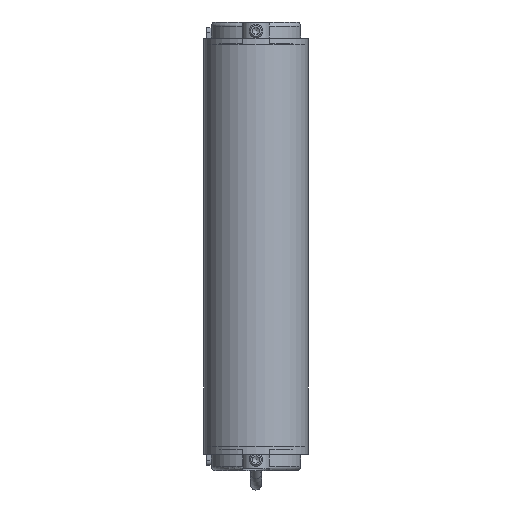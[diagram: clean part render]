
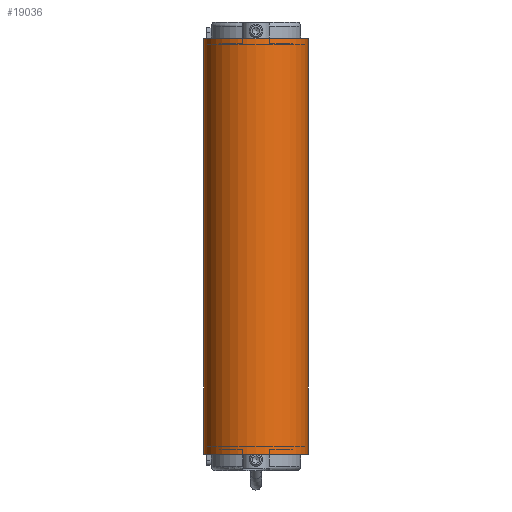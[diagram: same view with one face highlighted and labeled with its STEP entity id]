
A CAD part, front view. The second image highlights one B-rep face of the part: STEP entity #19036.
In plain terms, the highlighted cylindrical face has radius 23.3 mm (diameter 46.6 mm), a partial arc.
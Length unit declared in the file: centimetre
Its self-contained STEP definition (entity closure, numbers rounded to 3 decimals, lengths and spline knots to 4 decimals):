
#552=CYLINDRICAL_SURFACE('',#20370,2.33);
#1186=CIRCLE('',#20365,2.33);
#1189=CIRCLE('',#20371,2.33);
#1992=FACE_OUTER_BOUND('',#3027,.T.);
#3027=EDGE_LOOP('',(#12962,#12963,#12964,#12965));
#4331=LINE('',#28134,#5858);
#4332=LINE('',#28138,#5859);
#5858=VECTOR('',#23045,1.);
#5859=VECTOR('',#23050,1.);
#7565=VERTEX_POINT('',#28117);
#7566=VERTEX_POINT('',#28118);
#7571=VERTEX_POINT('',#28132);
#7572=VERTEX_POINT('',#28136);
#9647=EDGE_CURVE('',#7565,#7566,#1186,.T.);
#9655=EDGE_CURVE('',#7571,#7566,#4331,.T.);
#9656=EDGE_CURVE('',#7571,#7572,#1189,.T.);
#9657=EDGE_CURVE('',#7565,#7572,#4332,.T.);
#12962=ORIENTED_EDGE('',*,*,#9656,.T.);
#12963=ORIENTED_EDGE('',*,*,#9657,.F.);
#12964=ORIENTED_EDGE('',*,*,#9647,.T.);
#12965=ORIENTED_EDGE('',*,*,#9655,.F.);
#19036=ADVANCED_FACE('',(#1992),#552,.T.);
#20365=AXIS2_PLACEMENT_3D('',#28119,#23030,#23031);
#20370=AXIS2_PLACEMENT_3D('',#28135,#23046,#23047);
#20371=AXIS2_PLACEMENT_3D('',#28137,#23048,#23049);
#23030=DIRECTION('center_axis',(0.,0.,
-1.));
#23031=DIRECTION('ref_axis',(-1.,0.,0.));
#23045=DIRECTION('',(0.,0.,1.));
#23046=DIRECTION('center_axis',(0.,0.,
-1.));
#23047=DIRECTION('ref_axis',(-1.,0.,0.));
#23048=DIRECTION('center_axis',(0.,0.,
1.));
#23049=DIRECTION('ref_axis',(-1.,0.,0.));
#23050=DIRECTION('',(0.,0.,-1.));
#28117=CARTESIAN_POINT('',(2.33,-107.,9.25));
#28118=CARTESIAN_POINT('',(-2.33,-107.,9.25));
#28119=CARTESIAN_POINT('Origin',(0.,-107.,9.25));
#28132=CARTESIAN_POINT('',(-2.33,-107.,-9.25));
#28134=CARTESIAN_POINT('',(-2.33,-107.,0.));
#28135=CARTESIAN_POINT('Origin',(0.,-107.,0.));
#28136=CARTESIAN_POINT('',(2.33,-107.,-9.25));
#28137=CARTESIAN_POINT('Origin',(0.,-107.,-9.25));
#28138=CARTESIAN_POINT('',(2.33,-107.,0.));
